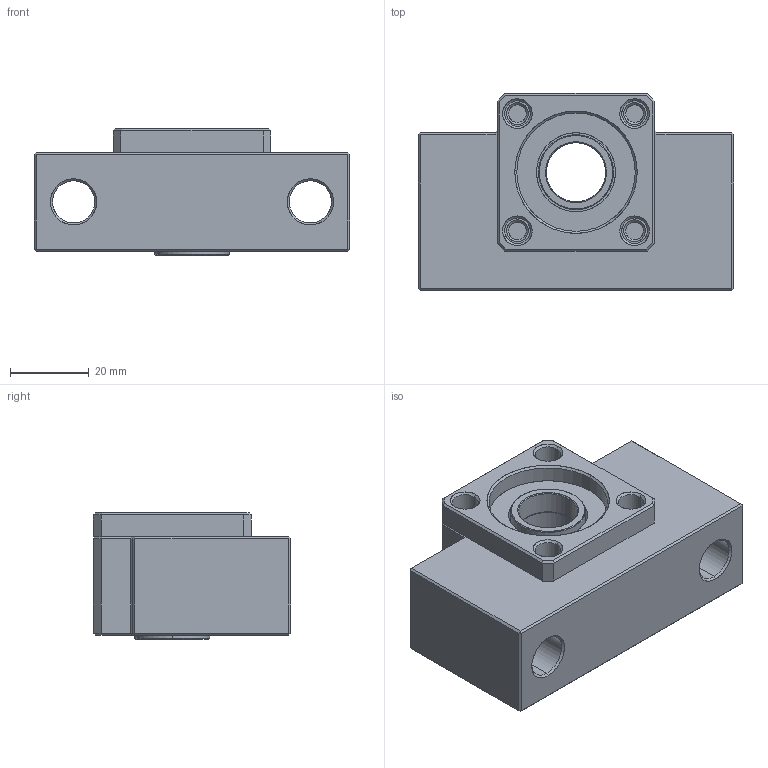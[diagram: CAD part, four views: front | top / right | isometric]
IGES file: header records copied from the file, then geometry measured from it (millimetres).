
Start section: SolidWorks IGES file using analytic representation for surfaces
Global section: file name: E:\同创达图纸\产品示意图\3D选型图\支撑座\AK系列\IGS\AK15.IGS; native system: SolidWorks 2012; preprocessor: SolidWorks 2012; author: gao; date: 130702.201617; units: millimetre
Bounding box: 80 x 50 x 32 mm (x, y, z)
Surface area: 21587.5 mm2 (no closed solid volume)
Topology: 0 solids, 0 shells, 170 faces, 2104 edges, 2104 vertices
Faces by surface type: bspline 86, revolution 84
